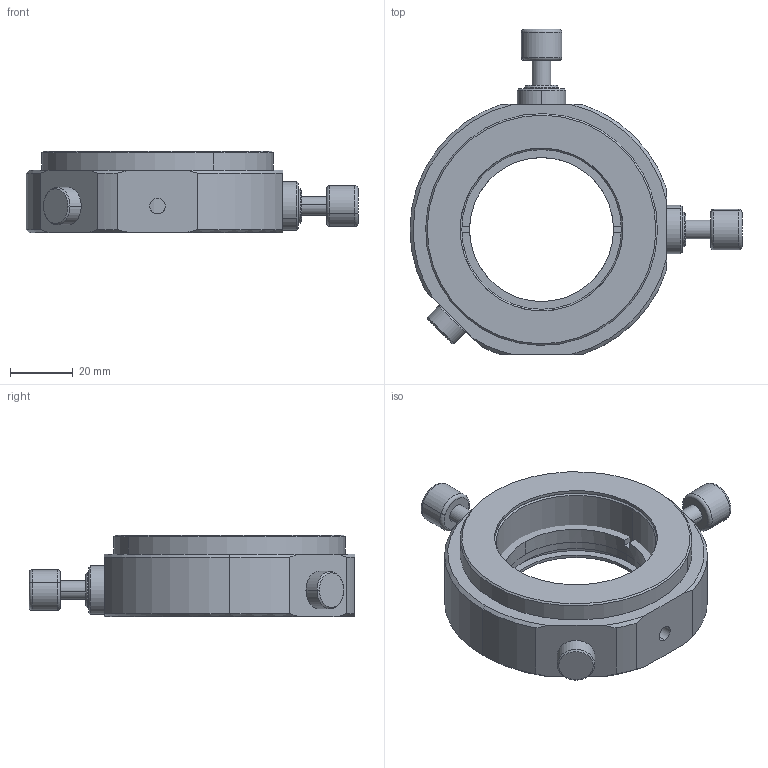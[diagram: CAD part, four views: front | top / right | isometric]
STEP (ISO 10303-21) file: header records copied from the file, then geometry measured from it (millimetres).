
FILE_DESCRIPTION (( 'STEP AP203' ), '1' );
FILE_NAME ('7MML7508謗峎覃淕芵噩殤.STEP', '2019-12-04T03:34:13', ( '' ), ( '' ), 'SwSTEP 2.0', 'SolidWorks 2018', '' );
FILE_SCHEMA (( 'CONFIG_CONTROL_DESIGN' ));
Length unit declared in the file: millimetre
Products named in the file (1): 7MML7508謗峎覃淕芵噩殤
Bounding box: 106 x 104 x 26 mm (x, y, z)
Volume: 73691.1 mm3; surface area: 46236.8 mm2
Topology: 14 solids, 14 shells, 255 faces, 553 edges, 344 vertices
Faces by surface type: cylinder 110, cone 68, plane 65, torus 8, sphere 4
Entity records: 7336 total; most frequent: CARTESIAN_POINT 1507, DIRECTION 1329, ORIENTED_EDGE 1082, AXIS2_PLACEMENT_3D 564, EDGE_CURVE 541, VERTEX_POINT 340, CIRCLE 308, EDGE_LOOP 307
